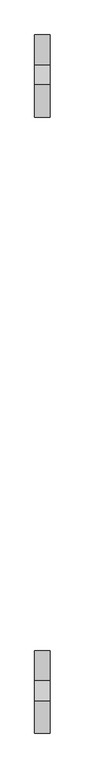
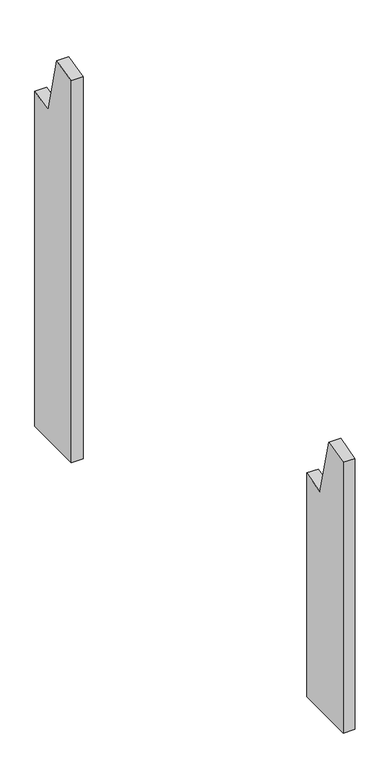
"""IFC4 building model written with IfcOpenShell, lengths in millimetres: proxy geometry, Modelos genéricos 5 : Modelos genéricos 5."""

from ifc_helpers import new_model, si_unit, frame, origin, place, context, project, spatial, polyline, outline, extrude, source, transform, mapped, element, save


def generic_models_e28ae7d0(model_context):
    return source(origin(), model_context, "Body", "SweptSolid", [
        extrude(outline(polyline([(628.6238165, 3000.0), (468.6238165, 3000.0), (468.6238165, 4023.0972283), (531.6985696, 4038.8235305), (570.4060729, 3883.5762143), (628.6238165, 3898.0915281), (628.6238165, 3000.0)])), frame((-12616.5527533, 0.0, 0.0), z_axis=(1.0, 0.0, 0.0), x_axis=(0.0, 1.0, 0.0)), (0.0, 0.0, 1.0), 30.0),
        extrude(outline(polyline([(-566.3761835, 3000.0), (-726.3761835, 3000.0), (-726.3761835, 3725.1502649), (-663.3014304, 3740.8765671), (-624.5939271, 3585.6292509), (-566.3761835, 3600.1445647), (-566.3761835, 3000.0)])), frame((-12616.5527533, 0.0, 0.0), z_axis=(1.0, 0.0, 0.0), x_axis=(0.0, 1.0, 0.0)), (0.0, 0.0, 1.0), 30.0),
    ])


if __name__ == "__main__":
    model = new_model("IFC4")
    model_context = context("Model", 3, world=origin())
    ifc_project = project(units=[si_unit("LENGTHUNIT", "METRE", prefix="MILLI")], contexts=[model_context])
    site = spatial("IfcSite", under=ifc_project)
    building = spatial("IfcBuilding", under=site)
    placement = place(None, origin())
    generic_models_shape = generic_models_e28ae7d0(model_context)
    element("IfcBuildingElementProxy", 1, Name="Modelos genéricos 5 : Modelos genéricos 5", ObjectType="Modelos genéricos 5 : Modelos genéricos 5", at=placement, inside=building, context=model_context, shape_type="MappedRepresentation", body=[
        mapped(generic_models_shape, transform((0.0, 0.0, 0.0), x_axis=(1.0, 0.0, 0.0), y_axis=(0.0, 1.0, 0.0), z_axis=(0.0, 0.0, 1.0))),
    ])
    save(model, "model.ifc")
